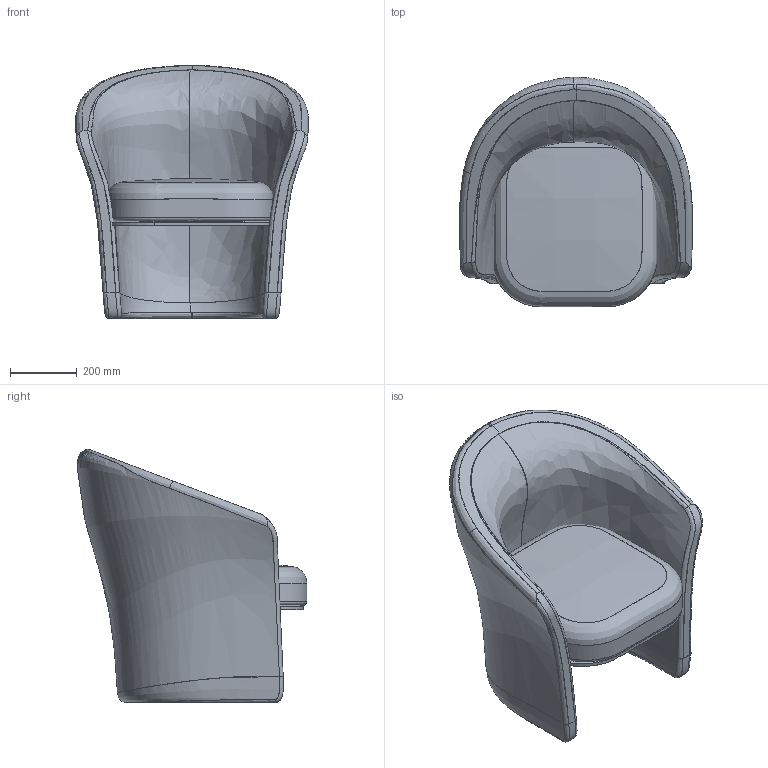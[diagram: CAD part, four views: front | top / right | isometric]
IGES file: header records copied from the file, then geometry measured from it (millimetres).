
Global section: file name: C:\Users\market02\Desktop\RYAN\FMERIFA071_FAUTEUIL_ARMCHAIR_MERINGUE\exportation\FMERIFA071_FAUTEUIL_ARMCHAIR_MERINGUE.igs; native system: Rhinoceros ( Dec 14 2021 ); preprocessor: Trout Lake IGES 012 Dec 14 2021; date: 220628.120912; units: millimetre
Bounding box: 699.47 x 688.66 x 759.93 mm (x, y, z)
Surface area: 3013435.1 mm2 (no closed solid volume)
Topology: 0 solids, 0 shells, 53 faces, 3325 edges, 3323 vertices
Faces by surface type: bspline 53
